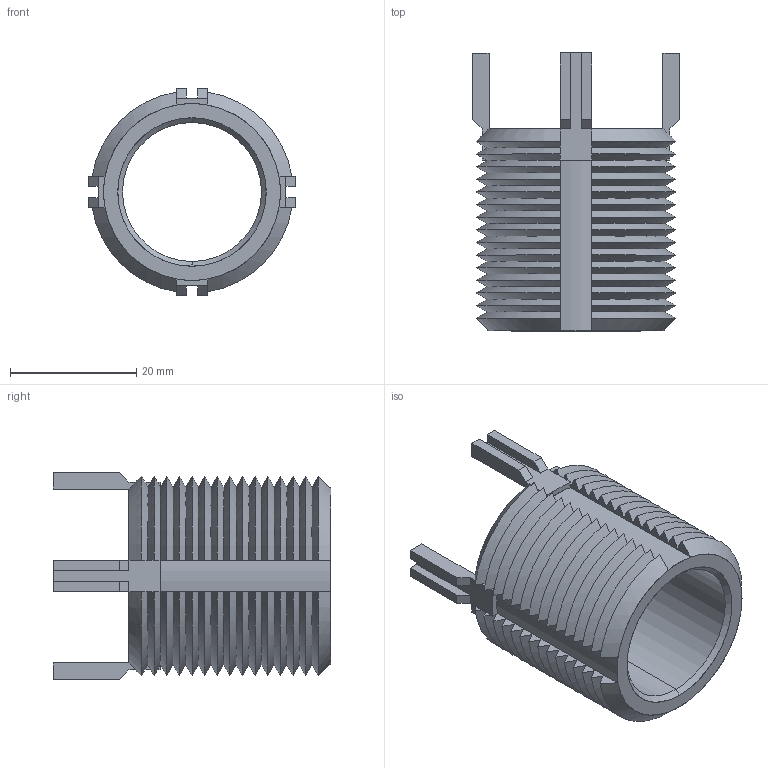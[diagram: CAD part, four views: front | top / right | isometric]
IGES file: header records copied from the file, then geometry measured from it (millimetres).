
Start section: SolidWorks IGES file using analytic representation for surfaces
Global section: file name: C:\Users\IanO\Desktop\PDF data sheets and models from M drive\Holding folder\TR1515_v2_20230317_IGES\22002.W5740.igs; native system: SolidWorks 2019; preprocessor: SolidWorks 2019; author: IanO; date: 230320.193054; units: millimetre
Bounding box: 32.75 x 44 x 32.75 mm (x, y, z)
Surface area: 9071.8 mm2 (no closed solid volume)
Topology: 0 solids, 0 shells, 220 faces, 1296 edges, 1296 vertices
Faces by surface type: revolution 130, bspline 90
